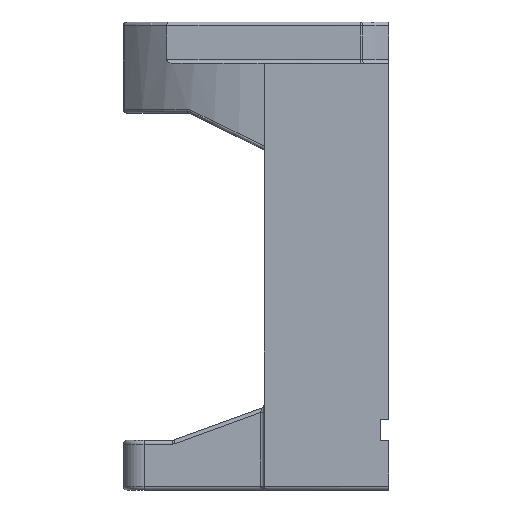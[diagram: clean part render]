
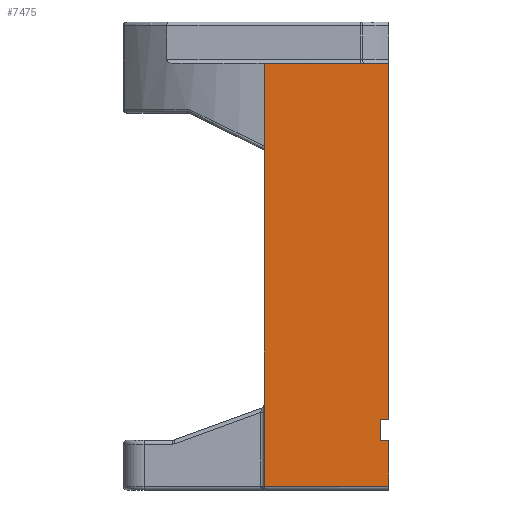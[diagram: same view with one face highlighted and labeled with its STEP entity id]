
A CAD part, left-side view. The second image highlights one B-rep face of the part: STEP entity #7475.
In plain terms, the highlighted planar face has unit normal (-1, 0, 0).
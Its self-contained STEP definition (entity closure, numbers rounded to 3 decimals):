
#249 = ORIENTED_EDGE ( 'NONE', *, *, #1137, .F. ) ;
#354 = ORIENTED_EDGE ( 'NONE', *, *, #1337, .T. ) ;
#576 = ORIENTED_EDGE ( 'NONE', *, *, #7853, .F. ) ;
#604 = AXIS2_PLACEMENT_3D ( 'NONE', #7323, #6741, #6702 ) ;
#893 = EDGE_CURVE ( 'NONE', #5402, #3237, #7551, .T. ) ;
#963 = DIRECTION ( 'NONE',  ( 0., -1., 0. ) ) ;
#1137 = EDGE_CURVE ( 'NONE', #2764, #4779, #2446, .T. ) ;
#1213 = EDGE_CURVE ( 'NONE', #4160, #5108, #4778, .T. ) ;
#1234 = VECTOR ( 'NONE', #1392, 1000. ) ;
#1273 = CARTESIAN_POINT ( 'NONE',  ( -44., -34., -5.1 ) ) ;
#1337 = EDGE_CURVE ( 'NONE', #7951, #5379, #4006, .T. ) ;
#1342 = CARTESIAN_POINT ( 'NONE',  ( -44., -34., 6. ) ) ;
#1392 = DIRECTION ( 'NONE',  ( 0., -1., 0. ) ) ;
#1424 = VECTOR ( 'NONE', #3986, 1000. ) ;
#1612 = EDGE_CURVE ( 'NONE', #5379, #3237, #4973, .T. ) ;
#1613 = CARTESIAN_POINT ( 'NONE',  ( -44., 0., 97. ) ) ;
#1668 = EDGE_CURVE ( 'NONE', #2764, #5108, #4772, .T. ) ;
#2138 = CARTESIAN_POINT ( 'NONE',  ( -44., -28., 6. ) ) ;
#2320 = CARTESIAN_POINT ( 'NONE',  ( -44., 0., -5.1 ) ) ;
#2446 = LINE ( 'NONE', #5241, #5358 ) ;
#2464 = VECTOR ( 'NONE', #3629, 1000. ) ;
#2764 = VERTEX_POINT ( 'NONE', #3555 ) ;
#2795 = CARTESIAN_POINT ( 'NONE',  ( -44., -28., 6. ) ) ;
#2879 = CARTESIAN_POINT ( 'NONE',  ( -44., -30., -5.1 ) ) ;
#2910 = VECTOR ( 'NONE', #5047, 1000. ) ;
#2928 = ORIENTED_EDGE ( 'NONE', *, *, #1213, .F. ) ;
#3051 = VECTOR ( 'NONE', #5163, 1000. ) ;
#3218 = ORIENTED_EDGE ( 'NONE', *, *, #7293, .F. ) ;
#3237 = VERTEX_POINT ( 'NONE', #5464 ) ;
#3293 = VECTOR ( 'NONE', #5371, 1000. ) ;
#3555 = CARTESIAN_POINT ( 'NONE',  ( -44., -30., 11. ) ) ;
#3614 = VECTOR ( 'NONE', #963, 1000. ) ;
#3629 = DIRECTION ( 'NONE',  ( 0., 0., 1. ) ) ;
#3690 = CARTESIAN_POINT ( 'NONE',  ( -44., -28., 11. ) ) ;
#3759 = CARTESIAN_POINT ( 'NONE',  ( -44., 0., 97. ) ) ;
#3915 = CARTESIAN_POINT ( 'NONE',  ( -44., 0., 97. ) ) ;
#3986 = DIRECTION ( 'NONE',  ( 0., -1., 0. ) ) ;
#4006 = LINE ( 'NONE', #1273, #3614 ) ;
#4131 = LINE ( 'NONE', #3759, #2464 ) ;
#4160 = VERTEX_POINT ( 'NONE', #1613 ) ;
#4301 = ORIENTED_EDGE ( 'NONE', *, *, #893, .F. ) ;
#4772 = LINE ( 'NONE', #5059, #2910 ) ;
#4778 = LINE ( 'NONE', #3915, #1424 ) ;
#4779 = VERTEX_POINT ( 'NONE', #3690 ) ;
#4973 = LINE ( 'NONE', #5462, #3293 ) ;
#5047 = DIRECTION ( 'NONE',  ( 0., 0., 1. ) ) ;
#5059 = CARTESIAN_POINT ( 'NONE',  ( -44., -30., 151.104 ) ) ;
#5108 = VERTEX_POINT ( 'NONE', #6026 ) ;
#5163 = DIRECTION ( 'NONE',  ( 0., 0., -1. ) ) ;
#5241 = CARTESIAN_POINT ( 'NONE',  ( -44., -28., 11. ) ) ;
#5358 = VECTOR ( 'NONE', #5575, 1000. ) ;
#5371 = DIRECTION ( 'NONE',  ( 0., 0., 1. ) ) ;
#5379 = VERTEX_POINT ( 'NONE', #2879 ) ;
#5384 = FACE_OUTER_BOUND ( 'NONE', #5394, .T. ) ;
#5394 = EDGE_LOOP ( 'NONE', ( #354, #7085, #4301, #3218, #249, #5458, #2928, #576 ) ) ;
#5402 = VERTEX_POINT ( 'NONE', #2795 ) ;
#5458 = ORIENTED_EDGE ( 'NONE', *, *, #1668, .T. ) ;
#5462 = CARTESIAN_POINT ( 'NONE',  ( -44., -30., 151.104 ) ) ;
#5464 = CARTESIAN_POINT ( 'NONE',  ( -44., -30., 6. ) ) ;
#5575 = DIRECTION ( 'NONE',  ( 0., 1., 0. ) ) ;
#6026 = CARTESIAN_POINT ( 'NONE',  ( -44., -30., 97. ) ) ;
#6344 = LINE ( 'NONE', #2138, #3051 ) ;
#6702 = DIRECTION ( 'NONE',  ( 0., -1., 0. ) ) ;
#6741 = DIRECTION ( 'NONE',  ( 1., 0., 0. ) ) ;
#7085 = ORIENTED_EDGE ( 'NONE', *, *, #1612, .T. ) ;
#7293 = EDGE_CURVE ( 'NONE', #4779, #5402, #6344, .T. ) ;
#7323 = CARTESIAN_POINT ( 'NONE',  ( -44., -34., 97. ) ) ;
#7344 = PLANE ( 'NONE',  #604 ) ;
#7475 = ADVANCED_FACE ( 'NONE', ( #5384 ), #7344, .F. ) ;
#7551 = LINE ( 'NONE', #1342, #1234 ) ;
#7853 = EDGE_CURVE ( 'NONE', #7951, #4160, #4131, .T. ) ;
#7951 = VERTEX_POINT ( 'NONE', #2320 ) ;
